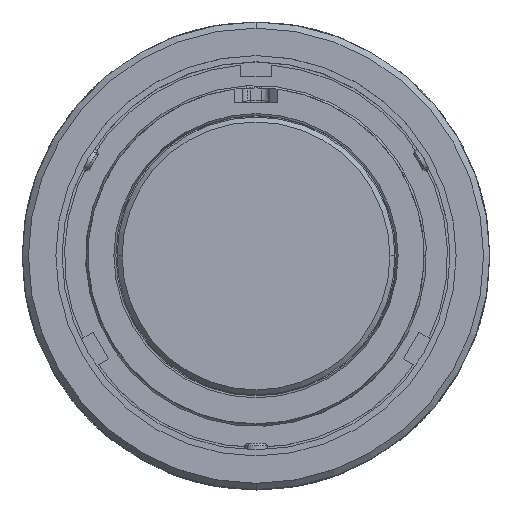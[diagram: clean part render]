
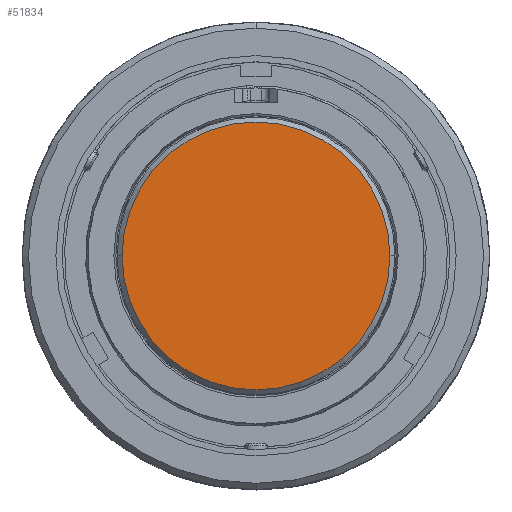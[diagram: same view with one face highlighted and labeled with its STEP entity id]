
A CAD part, top view. The second image highlights one B-rep face of the part: STEP entity #51834.
In plain terms, the highlighted planar face has unit normal (0, 0, 1).
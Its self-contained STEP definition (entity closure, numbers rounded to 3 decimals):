
#14276 = CARTESIAN_POINT ( 'NONE',  ( 0., 0., -13.589 ) ) ;
#19393 = AXIS2_PLACEMENT_3D ( 'NONE', #47689, #102430, #56136 ) ;
#20438 = DIRECTION ( 'NONE',  ( 1., 0., 0. ) ) ;
#23307 = DIRECTION ( 'NONE',  ( 0., 0., 1. ) ) ;
#30434 = AXIS2_PLACEMENT_3D ( 'NONE', #85961, #112451, #20438 ) ;
#39283 = EDGE_CURVE ( 'NONE', #64771, #69670, #52943, .T. ) ;
#41605 = EDGE_LOOP ( 'NONE', ( #56063, #114028 ) ) ;
#47689 = CARTESIAN_POINT ( 'NONE',  ( 0., 0., -13.589 ) ) ;
#51031 = AXIS2_PLACEMENT_3D ( 'NONE', #14276, #23307, #69606 ) ;
#51834 = ADVANCED_FACE ( 'NONE', ( #65155 ), #57327, .T. ) ;
#52943 = CIRCLE ( 'NONE', #51031, 13.767 ) ;
#56063 = ORIENTED_EDGE ( 'NONE', *, *, #39283, .T. ) ;
#56136 = DIRECTION ( 'NONE',  ( 1., 0., 0. ) ) ;
#57327 = PLANE ( 'NONE',  #19393 ) ;
#64771 = VERTEX_POINT ( 'NONE', #93741 ) ;
#65155 = FACE_OUTER_BOUND ( 'NONE', #41605, .T. ) ;
#66923 = CIRCLE ( 'NONE', #30434, 13.767 ) ;
#69606 = DIRECTION ( 'NONE',  ( 1., 0., 0. ) ) ;
#69670 = VERTEX_POINT ( 'NONE', #115434 ) ;
#85961 = CARTESIAN_POINT ( 'NONE',  ( 0., 0., -13.589 ) ) ;
#89081 = EDGE_CURVE ( 'NONE', #69670, #64771, #66923, .T. ) ;
#93741 = CARTESIAN_POINT ( 'NONE',  ( -13.767, 0., -13.589 ) ) ;
#102430 = DIRECTION ( 'NONE',  ( 0., 0., 1. ) ) ;
#112451 = DIRECTION ( 'NONE',  ( 0., 0., 1. ) ) ;
#114028 = ORIENTED_EDGE ( 'NONE', *, *, #89081, .T. ) ;
#115434 = CARTESIAN_POINT ( 'NONE',  ( 13.767, 0., -13.589 ) ) ;
